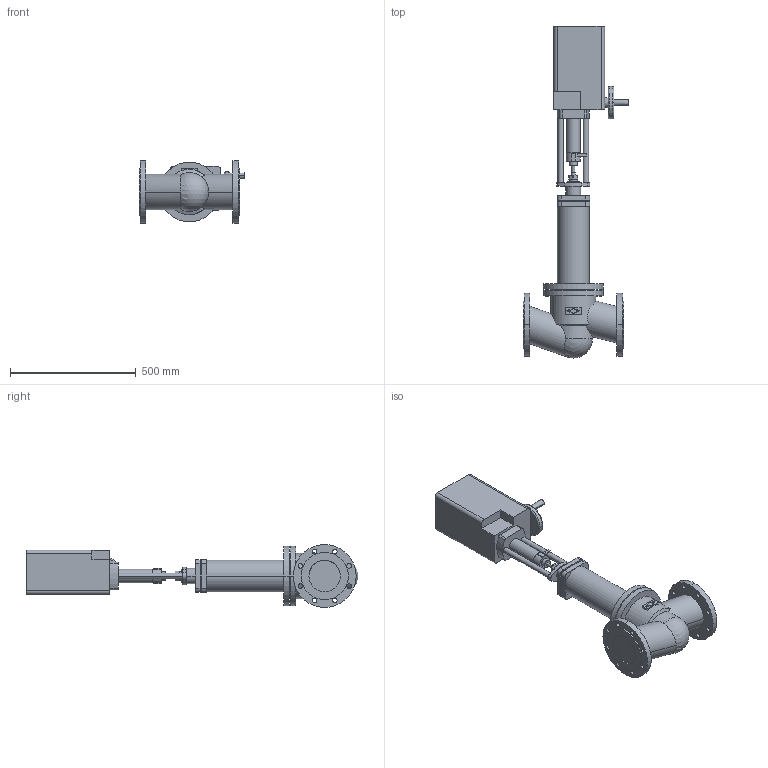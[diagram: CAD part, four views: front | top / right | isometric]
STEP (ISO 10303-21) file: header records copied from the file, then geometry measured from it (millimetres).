
FILE_DESCRIPTION( ( '' ), '1' );
FILE_NAME( 'F:/DE-SHS/TB/OR/04-Sonstiges/daten/files_3d/441-PN16-PREMIO/c000004828.stp', '2013-06-20T10:27:00', ( '' ), ( '' ), ' ', ' ', ' ' );
FILE_SCHEMA( ( 'CONFIG_CONTROL_DESIGN' ) );
Length unit declared in the file: millimetre
Products named in the file (2): 1; 2
Bounding box: 421.5 x 1320.14 x 250 mm (x, y, z)
Volume: 30224400.1 mm3; surface area: 1180885.3 mm2
Topology: 2 solids, 2 shells, 218 faces, 547 edges, 364 vertices
Faces by surface type: cylinder 116, plane 95, torus 4, cone 2, sphere 1
Entity records: 7298 total; most frequent: CARTESIAN_POINT 1677, DIRECTION 1232, ORIENTED_EDGE 1090, EDGE_CURVE 545, AXIS2_PLACEMENT_3D 481, VERTEX_POINT 364, EDGE_LOOP 283, LINE 270
